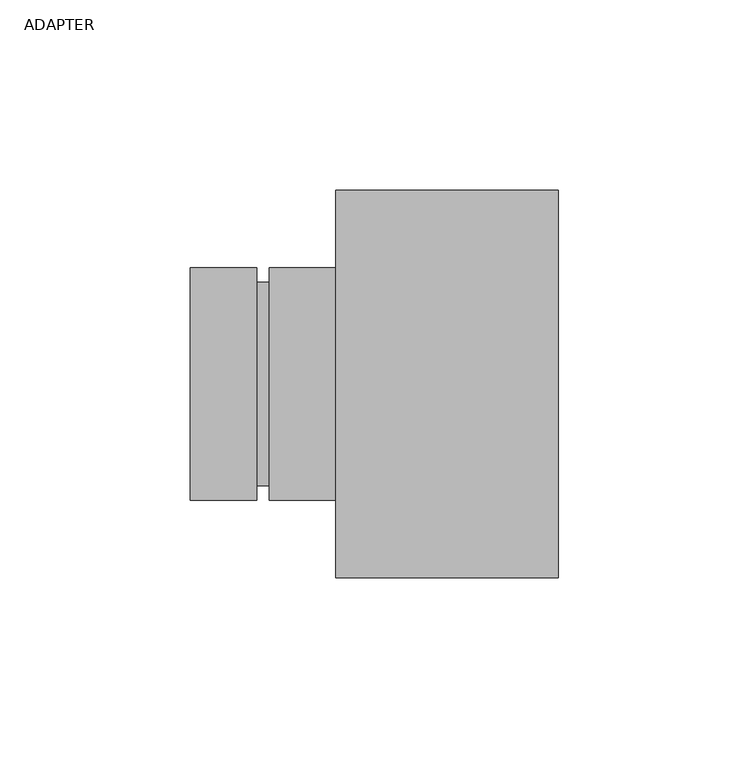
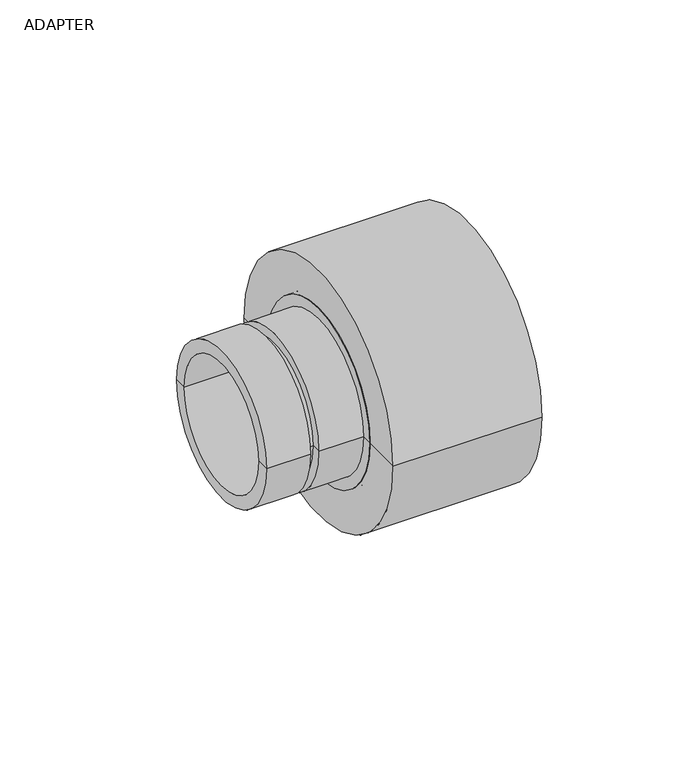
"""IFC4 building model written with IfcOpenShell, lengths in millimetres: valve geometry, Aquatherm - Grooved Pipe Transition : ADAPTER."""

from ifc_helpers import new_model, si_unit, frame, origin, place, context, project, spatial, polyline, circle_curve, source, transform, mapped, element, save
from ifc_brep_helpers import plane_surface, cylinder_surface, revolved_surface, advanced_brep


def adapter_1599eaf9(model_context):
    return source(origin(), model_context, "Body", "AdvancedBrep", [
        advanced_brep(
        [(3.175, -25.4, 0.0), (3.175, 25.4, 0.0), (-38.1, 25.4, 0.0), (-38.1, -25.4, 0.0), (3.175, -34.925, 0.0), (3.175, 34.925, 0.0), (-38.1, 30.48, 0.0), (-38.1, -30.48, 0.0), (-17.3566667, -30.48, 0.0), (-17.3566667, 30.48, 0.0), (0.0, 30.48, 0.0), (0.0, -30.48, 0.0), (-17.3566667, -26.67, 0.0), (-17.3566667, 26.67, 0.0), (-20.7433333, -26.67, 0.0), (-20.7433333, 26.67, 0.0), (-20.7433333, -30.48, 0.0), (-20.7433333, 30.48, 0.0), (0.0, -34.925, 0.0), (0.0, 34.925, 0.0)],
        [
            (0, 1, circle_curve(frame((3.175, 0.0, 0.0), z_axis=(1.0, 0.0, 0.0), x_axis=(0.0, 1.0, 0.0)), 25.4)),
            (1, 2),
            (2, 3, circle_curve(frame((-38.1, 0.0, 0.0), z_axis=(-1.0, 0.0, 0.0), x_axis=(0.0, 1.0, 0.0)), 25.4)),
            (3, 0),
            (1, 0, circle_curve(frame((3.175, 0.0, 0.0), z_axis=(1.0, 0.0, 0.0), x_axis=(0.0, 1.0, 0.0)), 25.4)),
            (3, 2, circle_curve(frame((-38.1, 0.0, 0.0), z_axis=(-1.0, 0.0, 0.0), x_axis=(0.0, 1.0, 0.0)), 25.4)),
            (4, 5, circle_curve(frame((3.175, 0.0, 0.0), z_axis=(1.0, 0.0, 0.0), x_axis=(0.0, 1.0, 0.0)), 34.925)),
            (5, 1),
            (0, 4),
            (5, 4, circle_curve(frame((3.175, 0.0, 0.0), z_axis=(1.0, 0.0, 0.0), x_axis=(0.0, 1.0, 0.0)), 34.925)),
            (2, 6),
            (6, 7, circle_curve(frame((-38.1, 0.0, 0.0), z_axis=(-1.0, 0.0, 0.0), x_axis=(0.0, 1.0, 0.0)), 30.48)),
            (7, 3),
            (7, 6, circle_curve(frame((-38.1, 0.0, 0.0), z_axis=(-1.0, 0.0, 0.0), x_axis=(0.0, 1.0, 0.0)), 30.48)),
            (8, 9, circle_curve(frame((-17.3566667, 0.0, 0.0), z_axis=(1.0, 0.0, 0.0), x_axis=(0.0, 1.0, 0.0)), 30.48)),
            (9, 10),
            (10, 11, circle_curve(frame((0.0, 0.0, 0.0), z_axis=(-1.0, 0.0, 0.0), x_axis=(0.0, 1.0, 0.0)), 30.48)),
            (11, 8),
            (9, 8, circle_curve(frame((-17.3566667, 0.0, 0.0), z_axis=(1.0, 0.0, 0.0), x_axis=(0.0, 1.0, 0.0)), 30.48)),
            (11, 10, circle_curve(frame((0.0, 0.0, 0.0), z_axis=(-1.0, 0.0, 0.0), x_axis=(0.0, 1.0, 0.0)), 30.48)),
            (12, 13, circle_curve(frame((-17.3566667, 0.0, 0.0), z_axis=(1.0, 0.0, 0.0), x_axis=(0.0, 1.0, 0.0)), 26.67)),
            (13, 9),
            (8, 12),
            (13, 12, circle_curve(frame((-17.3566667, 0.0, 0.0), z_axis=(1.0, 0.0, 0.0), x_axis=(0.0, 1.0, 0.0)), 26.67)),
            (14, 15, circle_curve(frame((-20.7433333, 0.0, 0.0), z_axis=(1.0, 0.0, 0.0), x_axis=(0.0, 1.0, 0.0)), 26.67)),
            (15, 13),
            (12, 14),
            (15, 14, circle_curve(frame((-20.7433333, 0.0, 0.0), z_axis=(1.0, 0.0, 0.0), x_axis=(0.0, 1.0, 0.0)), 26.67)),
            (16, 17, circle_curve(frame((-20.7433333, 0.0, 0.0), z_axis=(1.0, 0.0, 0.0), x_axis=(0.0, 1.0, 0.0)), 30.48)),
            (17, 15),
            (14, 16),
            (17, 16, circle_curve(frame((-20.7433333, 0.0, 0.0), z_axis=(1.0, 0.0, 0.0), x_axis=(0.0, 1.0, 0.0)), 30.48)),
            (6, 17),
            (16, 7),
            (18, 19, circle_curve(frame((0.0, 0.0, 0.0), z_axis=(1.0, 0.0, 0.0), x_axis=(0.0, 1.0, 0.0)), 34.925)),
            (19, 5),
            (4, 18),
            (19, 18, circle_curve(frame((0.0, 0.0, 0.0), z_axis=(1.0, 0.0, 0.0), x_axis=(0.0, 1.0, 0.0)), 34.925)),
            (10, 19),
            (18, 11),
        ],
        [
            revolved_surface(polyline([(-38.1, 25.4, 0.0), (3.174999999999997, 25.4, 0.0)]), (-49.657, 0.0, 0.0), (-1.0, 0.0, 0.0)),
            plane_surface(frame((3.175, 0.0, 0.0), z_axis=(1.0, 0.0, 0.0), x_axis=(0.0, 1.0, 0.0))),
            plane_surface(frame((-38.1, 0.0, 0.0), z_axis=(-1.0, 0.0, 0.0), x_axis=(0.0, 1.0, 0.0))),
            cylinder_surface(frame((-49.657, 0.0, 0.0), z_axis=(-1.0, 0.0, 0.0), x_axis=(0.0, 1.0, 0.0)), 30.48),
            plane_surface(frame((-17.3566667, 0.0, 0.0), z_axis=(-1.0, 0.0, 0.0), x_axis=(0.0, 1.0, 0.0))),
            cylinder_surface(frame((-49.657, 0.0, 0.0), z_axis=(-1.0, 0.0, 0.0), x_axis=(0.0, 1.0, 0.0)), 26.67),
            plane_surface(frame((-20.7433333, 0.0, 0.0), z_axis=(1.0, 0.0, 0.0), x_axis=(0.0, 1.0, 0.0))),
            cylinder_surface(frame((-49.657, 0.0, 0.0), z_axis=(-1.0, 0.0, 0.0), x_axis=(0.0, 1.0, 0.0)), 34.925),
            plane_surface(frame((0.0, 0.0, 0.0), z_axis=(-1.0, 0.0, 0.0), x_axis=(0.0, 1.0, 0.0))),
        ],
        [
            (0, [[1, 2, 3, 4]]),
            (0, [[5, -4, 6, -2]]),
            (1, [[7, 8, -1, 9]]),
            (1, [[10, -9, -5, -8]]),
            (2, [[-3, 11, 12, 13]]),
            (2, [[-6, -13, 14, -11]]),
            (3, [[15, 16, 17, 18]]),
            (3, [[19, -18, 20, -16]]),
            (4, [[21, 22, -15, 23]]),
            (4, [[24, -23, -19, -22]]),
            (5, [[25, 26, -21, 27]]),
            (5, [[28, -27, -24, -26]]),
            (6, [[29, 30, -25, 31]]),
            (6, [[32, -31, -28, -30]]),
            (3, [[-12, 33, -29, 34]]),
            (3, [[-14, -34, -32, -33]]),
            (7, [[35, 36, -7, 37]]),
            (7, [[38, -37, -10, -36]]),
            (8, [[-17, 39, -35, 40]]),
            (8, [[-20, -40, -38, -39]]),
        ],
    ),
        advanced_brep(
        [(0.0, -50.8, 0.0), (0.0, 50.8, 0.0), (58.42, 50.8, 0.0), (58.42, -50.8, 0.0), (0.0, -34.925, 0.0), (0.0, 34.925, 0.0), (3.175, -34.925, 0.0), (3.175, 34.925, 0.0), (3.175, -25.4, 0.0), (3.175, 25.4, 0.0), (58.42, -35.56, 0.0), (58.42, 35.56, 0.0), (28.448, 35.56, 0.0), (28.448, -35.56, 0.0), (28.448, -25.4, 0.0), (28.448, 25.4, 0.0)],
        [
            (0, 1, circle_curve(frame((0.0, 0.0, 0.0), z_axis=(1.0, 0.0, 0.0), x_axis=(0.0, 1.0, 0.0)), 50.8)),
            (1, 2),
            (2, 3, circle_curve(frame((58.42, 0.0, 0.0), z_axis=(-1.0, 0.0, 0.0), x_axis=(0.0, 1.0, 0.0)), 50.8)),
            (3, 0),
            (1, 0, circle_curve(frame((0.0, 0.0, 0.0), z_axis=(1.0, 0.0, 0.0), x_axis=(0.0, 1.0, 0.0)), 50.8)),
            (3, 2, circle_curve(frame((58.42, 0.0, 0.0), z_axis=(-1.0, 0.0, 0.0), x_axis=(0.0, 1.0, 0.0)), 50.8)),
            (4, 5, circle_curve(frame((0.0, 0.0, 0.0), z_axis=(1.0, 0.0, 0.0), x_axis=(0.0, 1.0, 0.0)), 34.925)),
            (5, 1),
            (0, 4),
            (5, 4, circle_curve(frame((0.0, 0.0, 0.0), z_axis=(1.0, 0.0, 0.0), x_axis=(0.0, 1.0, 0.0)), 34.925)),
            (6, 7, circle_curve(frame((3.175, 0.0, 0.0), z_axis=(1.0, 0.0, 0.0), x_axis=(0.0, 1.0, 0.0)), 34.925)),
            (7, 5),
            (4, 6),
            (7, 6, circle_curve(frame((3.175, 0.0, 0.0), z_axis=(1.0, 0.0, 0.0), x_axis=(0.0, 1.0, 0.0)), 34.925)),
            (8, 9, circle_curve(frame((3.175, 0.0, 0.0), z_axis=(1.0, 0.0, 0.0), x_axis=(0.0, 1.0, 0.0)), 25.4)),
            (9, 7),
            (6, 8),
            (9, 8, circle_curve(frame((3.175, 0.0, 0.0), z_axis=(1.0, 0.0, 0.0), x_axis=(0.0, 1.0, 0.0)), 25.4)),
            (10, 11, circle_curve(frame((58.42, 0.0, 0.0), z_axis=(1.0, 0.0, 0.0), x_axis=(0.0, 1.0, 0.0)), 35.56)),
            (11, 12),
            (12, 13, circle_curve(frame((28.448, 0.0, 0.0), z_axis=(-1.0, 0.0, 0.0), x_axis=(0.0, 1.0, 0.0)), 35.56)),
            (13, 10),
            (11, 10, circle_curve(frame((58.42, 0.0, 0.0), z_axis=(1.0, 0.0, 0.0), x_axis=(0.0, 1.0, 0.0)), 35.56)),
            (13, 12, circle_curve(frame((28.448, 0.0, 0.0), z_axis=(-1.0, 0.0, 0.0), x_axis=(0.0, 1.0, 0.0)), 35.56)),
            (2, 11),
            (10, 3),
            (14, 15, circle_curve(frame((28.448, 0.0, 0.0), z_axis=(1.0, 0.0, 0.0), x_axis=(0.0, 1.0, 0.0)), 25.4)),
            (15, 9),
            (8, 14),
            (15, 14, circle_curve(frame((28.448, 0.0, 0.0), z_axis=(1.0, 0.0, 0.0), x_axis=(0.0, 1.0, 0.0)), 25.4)),
            (12, 15),
            (14, 13),
        ],
        [
            cylinder_surface(frame((-63.5, 0.0, 0.0), z_axis=(-1.0, 0.0, 0.0), x_axis=(0.0, 1.0, 0.0)), 50.8),
            plane_surface(frame((0.0, 0.0, 0.0), z_axis=(-1.0, 0.0, 0.0), x_axis=(0.0, 1.0, 0.0))),
            revolved_surface(polyline([(0.0, 34.925, 0.0), (3.174999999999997, 34.925, 0.0)]), (-63.5, 0.0, 0.0), (-1.0, 0.0, 0.0)),
            plane_surface(frame((3.175, 0.0, 0.0), z_axis=(-1.0, 0.0, 0.0), x_axis=(0.0, 1.0, 0.0))),
            revolved_surface(polyline([(28.448000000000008, 35.56, 0.0), (58.42, 35.56, 0.0)]), (-63.5, 0.0, 0.0), (-1.0, 0.0, 0.0)),
            plane_surface(frame((58.42, 0.0, 0.0), z_axis=(1.0, 0.0, 0.0), x_axis=(0.0, 1.0, 0.0))),
            revolved_surface(polyline([(3.174999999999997, 25.4, 0.0), (28.448000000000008, 25.4, 0.0)]), (-63.5, 0.0, 0.0), (-1.0, 0.0, 0.0)),
            plane_surface(frame((28.448, 0.0, 0.0), z_axis=(1.0, 0.0, 0.0), x_axis=(0.0, 1.0, 0.0))),
        ],
        [
            (0, [[1, 2, 3, 4]]),
            (0, [[5, -4, 6, -2]]),
            (1, [[7, 8, -1, 9]]),
            (1, [[10, -9, -5, -8]]),
            (2, [[11, 12, -7, 13]]),
            (2, [[14, -13, -10, -12]]),
            (3, [[15, 16, -11, 17]]),
            (3, [[18, -17, -14, -16]]),
            (4, [[19, 20, 21, 22]]),
            (4, [[23, -22, 24, -20]]),
            (5, [[-3, 25, -19, 26]]),
            (5, [[-6, -26, -23, -25]]),
            (6, [[27, 28, -15, 29]]),
            (6, [[30, -29, -18, -28]]),
            (7, [[-21, 31, -27, 32]]),
            (7, [[-24, -32, -30, -31]]),
        ],
    ),
    ])


if __name__ == "__main__":
    model = new_model("IFC4")
    model_context = context("Model", 3, world=origin())
    ifc_project = project(units=[si_unit("LENGTHUNIT", "METRE", prefix="MILLI")], contexts=[model_context])
    site = spatial("IfcSite", under=ifc_project)
    building = spatial("IfcBuilding", under=site)
    placement = place(None, origin())
    adapter_shape = adapter_1599eaf9(model_context)
    element("IfcValve", 1, ObjectType="Aquatherm - Grooved Pipe Transition : ADAPTER", at=placement, inside=building, context=model_context, shape_type="MappedRepresentation", body=[
        mapped(adapter_shape, transform((0.0, 0.0, 0.0), x_axis=(1.0, 0.0, 0.0), y_axis=(0.0, 1.0, 0.0), z_axis=(0.0, 0.0, 1.0))),
    ])
    save(model, "model.ifc")
